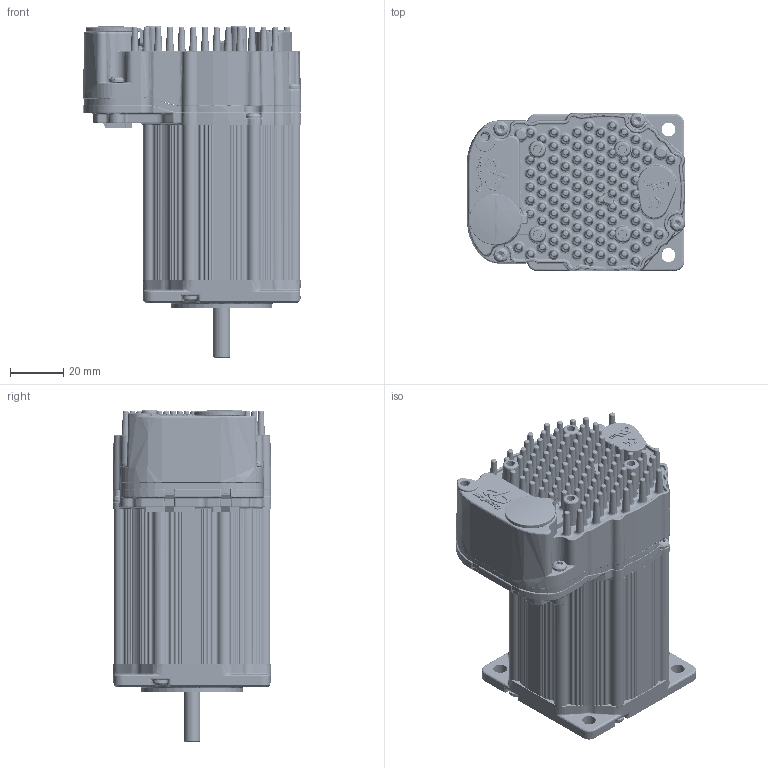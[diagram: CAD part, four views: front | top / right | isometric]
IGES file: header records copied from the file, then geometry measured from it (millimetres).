
Start section: SolidWorks IGES file using analytic representation for surfaces
Global section: file name: C:\TeknicPDM\Clearpath\Customer Downloadable Files\CPM-_ _ _ _ -232x_-Q.IGS; native system: SolidWorks 2020; preprocessor: SolidWorks 2020; author: matt_ciminelli; date: 220624.082452; units: inch
Bounding box: 81.98 x 59.69 x 124.7 mm (x, y, z)
Surface area: 67631.1 mm2 (no closed solid volume)
Topology: 0 solids, 0 shells, 7354 faces, 71801 edges, 71551 vertices
Faces by surface type: revolution 3863, bspline 3491
